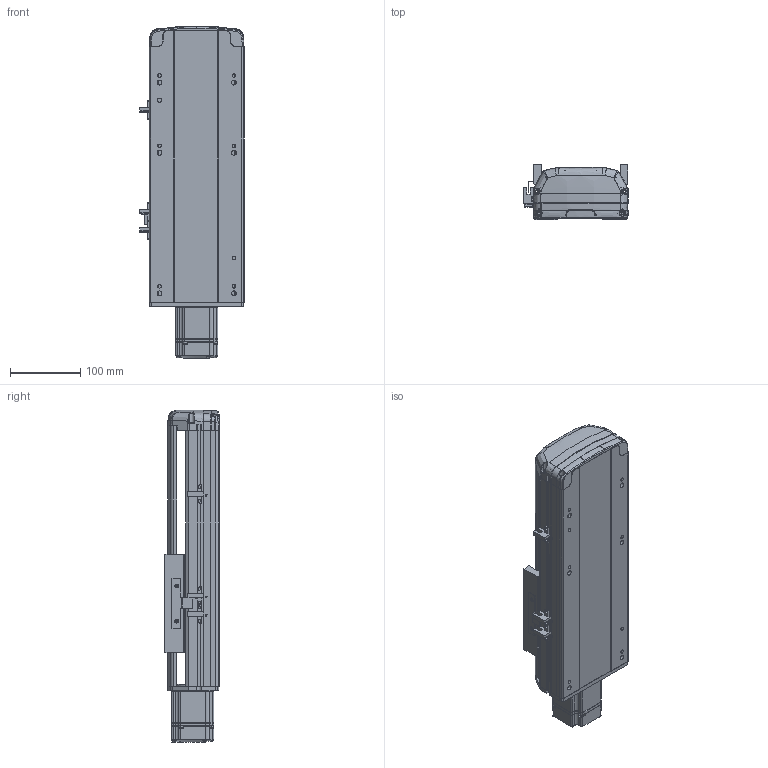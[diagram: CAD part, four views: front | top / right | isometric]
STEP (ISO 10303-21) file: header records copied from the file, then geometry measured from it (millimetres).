
FILE_DESCRIPTION (( 'STEP AP214' ), '1' );
FILE_NAME ('RTH14-XX-150-E-M20-C4.STEP', '2025-10-24T09:04:50', ( 'Microsoft' ), ( 'Microsoft' ), 'SwSTEP 2.0', 'SolidWorks 2018', '' );
FILE_SCHEMA (( 'AUTOMOTIVE_DESIGN' ));
Length unit declared in the file: millimetre
Products named in the file (9): N_RTH14-E-011P菁釱^RTH14-XX-XX-E-M20-C4; N_RTH14-E-007P奻裔^RTH14-XX-XX-E-M20-C4; RTH14-XX-150-E-M20-C4; N_RTH13-L-012感应片（外置）^RTH14-XX-XX-E-M20-C4; N_RTH13-E-008萇儂耜猾裔^RTH14-XX-XX-E-M20-C4; N_RTH14-GY-001P^RTH14-XX-XX-E-M20-C4; N_RTH14-R-004-SFSR16賑釱^RTH14-XX-XX-E-M20-C4; N_MSMD022P1AA_200W^RTH14-XX-XX-E-M20-C4; N_OMRON EE-SX672 传感器^RTH14-XX-XX-E-M20-C4
Assembly tree (10 placements, depth 2):
  RTH14-XX-150-E-M20-C4
    N_RTH14-E-011P菁釱^RTH14-XX-XX-E-M20-C4
    N_RTH14-E-007P奻裔^RTH14-XX-XX-E-M20-C4
    N_MSMD022P1AA_200W^RTH14-XX-XX-E-M20-C4
    N_RTH13-L-012感应片（外置）^RTH14-XX-XX-E-M20-C4
    N_OMRON EE-SX672 传感器^RTH14-XX-XX-E-M20-C4  x3
    N_RTH13-E-008萇儂耜猾裔^RTH14-XX-XX-E-M20-C4
    N_RTH14-R-004-SFSR16賑釱^RTH14-XX-XX-E-M20-C4
    N_RTH14-GY-001P^RTH14-XX-XX-E-M20-C4
Bounding box: 148.5 x 78.03 x 472.49 mm (x, y, z)
Volume: 2170306.8 mm3; surface area: 475104.8 mm2
Topology: 10 solids, 10 shells, 1839 faces, 5170 edges, 3396 vertices
Faces by surface type: plane 973, cylinder 476, bspline 341, cone 45, torus 4
Entity records: 56092 total; most frequent: CARTESIAN_POINT 22584, ORIENTED_EDGE 7408, DIRECTION 5923, EDGE_CURVE 3704, VERTEX_POINT 2432, VECTOR 2139, LINE 2139, AXIS2_PLACEMENT_3D 1892
